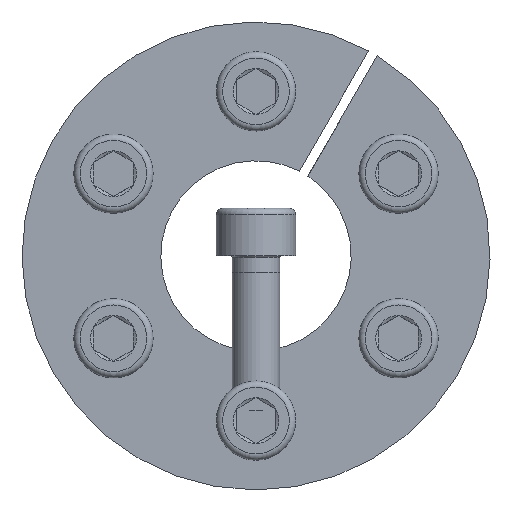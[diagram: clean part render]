
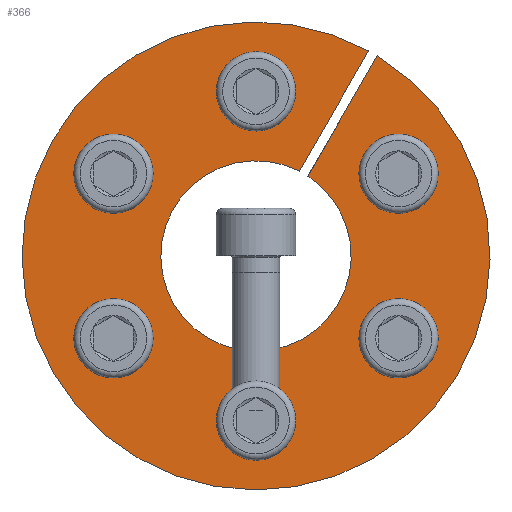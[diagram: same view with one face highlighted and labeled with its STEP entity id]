
A CAD part, front view. The second image highlights one B-rep face of the part: STEP entity #366.
In plain terms, the highlighted planar face has unit normal (0, -1, 0).
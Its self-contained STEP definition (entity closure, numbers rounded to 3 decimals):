
#366 = ADVANCED_FACE( '', ( #569, #570, #571, #572, #573, #574, #575 ), #576, .F. );
#569 = FACE_BOUND( '', #713, .T. );
#570 = FACE_BOUND( '', #714, .T. );
#571 = FACE_BOUND( '', #715, .T. );
#572 = FACE_BOUND( '', #716, .T. );
#573 = FACE_BOUND( '', #717, .T. );
#574 = FACE_BOUND( '', #718, .T. );
#575 = FACE_OUTER_BOUND( '', #719, .T. );
#576 = PLANE( '', #720 );
#713 = EDGE_LOOP( '', ( #896 ) );
#714 = EDGE_LOOP( '', ( #897 ) );
#715 = EDGE_LOOP( '', ( #898 ) );
#716 = EDGE_LOOP( '', ( #899 ) );
#717 = EDGE_LOOP( '', ( #900 ) );
#718 = EDGE_LOOP( '', ( #901 ) );
#719 = EDGE_LOOP( '', ( #902, #903, #904, #905 ) );
#720 = AXIS2_PLACEMENT_3D( '', #906, #907, #908 );
#896 = ORIENTED_EDGE( '', *, *, #1210, .T. );
#897 = ORIENTED_EDGE( '', *, *, #1211, .T. );
#898 = ORIENTED_EDGE( '', *, *, #1212, .T. );
#899 = ORIENTED_EDGE( '', *, *, #1213, .T. );
#900 = ORIENTED_EDGE( '', *, *, #1214, .T. );
#901 = ORIENTED_EDGE( '', *, *, #1215, .T. );
#902 = ORIENTED_EDGE( '', *, *, #1216, .T. );
#903 = ORIENTED_EDGE( '', *, *, #1217, .T. );
#904 = ORIENTED_EDGE( '', *, *, #1202, .T. );
#905 = ORIENTED_EDGE( '', *, *, #1218, .F. );
#906 = CARTESIAN_POINT( '', ( 0., 0., 29.5 ) );
#907 = DIRECTION( '', ( 0., 1., 0. ) );
#908 = DIRECTION( '', ( 0., 0., 1. ) );
#1202 = EDGE_CURVE( '', #1331, #1329, #1332, .T. );
#1210 = EDGE_CURVE( '', #1345, #1345, #1346, .T. );
#1211 = EDGE_CURVE( '', #1347, #1347, #1348, .T. );
#1212 = EDGE_CURVE( '', #1349, #1349, #1350, .T. );
#1213 = EDGE_CURVE( '', #1351, #1351, #1352, .T. );
#1214 = EDGE_CURVE( '', #1353, #1353, #1354, .T. );
#1215 = EDGE_CURVE( '', #1355, #1355, #1356, .T. );
#1216 = EDGE_CURVE( '', #1357, #1358, #1359, .T. );
#1217 = EDGE_CURVE( '', #1358, #1331, #1360, .T. );
#1218 = EDGE_CURVE( '', #1357, #1329, #1361, .T. );
#1329 = VERTEX_POINT( '', #1429 );
#1331 = VERTEX_POINT( '', #1432 );
#1332 = LINE( '', #1433, #1434 );
#1345 = VERTEX_POINT( '', #1458 );
#1346 = CIRCLE( '', #1459, 3. );
#1347 = VERTEX_POINT( '', #1460 );
#1348 = CIRCLE( '', #1461, 3. );
#1349 = VERTEX_POINT( '', #1462 );
#1350 = CIRCLE( '', #1463, 3. );
#1351 = VERTEX_POINT( '', #1464 );
#1352 = CIRCLE( '', #1465, 3. );
#1353 = VERTEX_POINT( '', #1466 );
#1354 = CIRCLE( '', #1467, 3. );
#1355 = VERTEX_POINT( '', #1468 );
#1356 = CIRCLE( '', #1469, 3. );
#1357 = VERTEX_POINT( '', #1470 );
#1358 = VERTEX_POINT( '', #1471 );
#1359 = LINE( '', #1472, #1473 );
#1360 = CIRCLE( '', #1474, 29.5 );
#1361 = CIRCLE( '', #1475, 12. );
#1429 = CARTESIAN_POINT( '', ( 6.533, 0., 10.066 ) );
#1432 = CARTESIAN_POINT( '', ( 15.288, 0., 25.23 ) );
#1433 = CARTESIAN_POINT( '', ( 15.291, 0., 25.235 ) );
#1434 = VECTOR( '', #1559, 1000. );
#1458 = CARTESIAN_POINT( '', ( -16.47, 0., 12.973 ) );
#1459 = AXIS2_PLACEMENT_3D( '', #1565, #1566, #1567 );
#1460 = CARTESIAN_POINT( '', ( -3., 0., -20.75 ) );
#1461 = AXIS2_PLACEMENT_3D( '', #1568, #1569, #1570 );
#1462 = CARTESIAN_POINT( '', ( 19.47, 0., 7.777 ) );
#1463 = AXIS2_PLACEMENT_3D( '', #1571, #1572, #1573 );
#1464 = CARTESIAN_POINT( '', ( 3., 0., 20.75 ) );
#1465 = AXIS2_PLACEMENT_3D( '', #1574, #1575, #1576 );
#1466 = CARTESIAN_POINT( '', ( 16.47, 0., -12.973 ) );
#1467 = AXIS2_PLACEMENT_3D( '', #1577, #1578, #1579 );
#1468 = CARTESIAN_POINT( '', ( -19.47, 0., -7.777 ) );
#1469 = AXIS2_PLACEMENT_3D( '', #1580, #1581, #1582 );
#1470 = CARTESIAN_POINT( '', ( 5.451, 0., 10.691 ) );
#1471 = CARTESIAN_POINT( '', ( 14.205, 0., 25.855 ) );
#1472 = CARTESIAN_POINT( '', ( 5.451, 0., 10.691 ) );
#1473 = VECTOR( '', #1583, 1000. );
#1474 = AXIS2_PLACEMENT_3D( '', #1584, #1585, #1586 );
#1475 = AXIS2_PLACEMENT_3D( '', #1587, #1588, #1589 );
#1559 = DIRECTION( '', ( -0.5, 0., -0.866 ) );
#1565 = CARTESIAN_POINT( '', ( -17.97, 0., 10.375 ) );
#1566 = DIRECTION( '', ( 0., 1., 0. ) );
#1567 = DIRECTION( '', ( 0.5, 0., 0.866 ) );
#1568 = CARTESIAN_POINT( '', ( 0., 0., -20.75 ) );
#1569 = DIRECTION( '', ( 0., 1., 0. ) );
#1570 = DIRECTION( '', ( -1., 0., 0. ) );
#1571 = CARTESIAN_POINT( '', ( 17.97, 0., 10.375 ) );
#1572 = DIRECTION( '', ( 0., 1., 0. ) );
#1573 = DIRECTION( '', ( 0.5, 0., -0.866 ) );
#1574 = CARTESIAN_POINT( '', ( 0., 0., 20.75 ) );
#1575 = DIRECTION( '', ( 0., 1., 0. ) );
#1576 = DIRECTION( '', ( 1., 0., 0. ) );
#1577 = CARTESIAN_POINT( '', ( 17.97, 0., -10.375 ) );
#1578 = DIRECTION( '', ( 0., 1., 0. ) );
#1579 = DIRECTION( '', ( -0.5, 0., -0.866 ) );
#1580 = CARTESIAN_POINT( '', ( -17.97, 0., -10.375 ) );
#1581 = DIRECTION( '', ( 0., 1., 0. ) );
#1582 = DIRECTION( '', ( -0.5, 0., 0.866 ) );
#1583 = DIRECTION( '', ( 0.5, 0., 0.866 ) );
#1584 = CARTESIAN_POINT( '', ( 0., 0., 0. ) );
#1585 = DIRECTION( '', ( 0., -1., 0. ) );
#1586 = DIRECTION( '', ( 0., 0., -1. ) );
#1587 = CARTESIAN_POINT( '', ( 0., 0., 0. ) );
#1588 = DIRECTION( '', ( 0., -1., 0. ) );
#1589 = DIRECTION( '', ( 0., 0., -1. ) );
